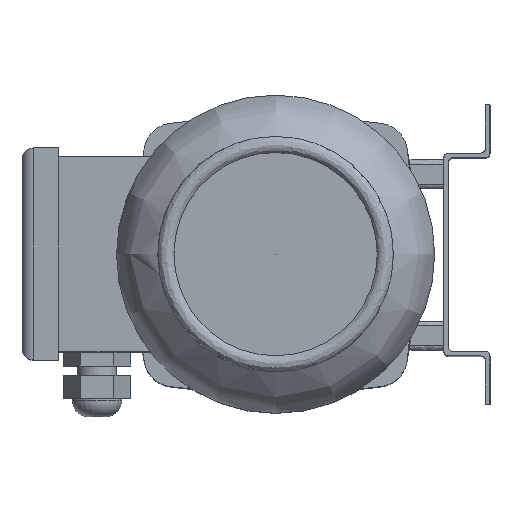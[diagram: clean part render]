
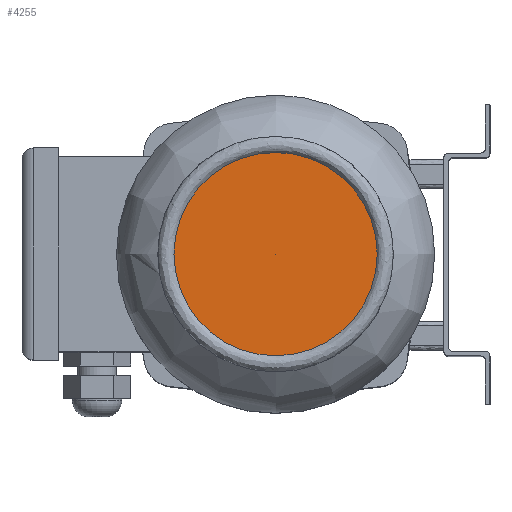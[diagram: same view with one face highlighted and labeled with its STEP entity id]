
A CAD part, top view. The second image highlights one B-rep face of the part: STEP entity #4255.
In plain terms, the highlighted conical face has half-angle 90 degrees and reference radius 0 mm.
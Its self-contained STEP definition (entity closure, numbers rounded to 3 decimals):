
#23=VERTEX_LOOP('',#3101);
#31=CONICAL_SURFACE('',#4577,0.,1.571);
#896=CIRCLE('',#4578,44.08);
#1276=ORIENTED_EDGE('',*,*,#2496,.F.);
#2496=EDGE_CURVE('',#3100,#3100,#896,.T.);
#3100=VERTEX_POINT('',#7221);
#3101=VERTEX_POINT('',#7222);
#3549=EDGE_LOOP('',(#1276));
#3880=FACE_BOUND('',#3549,.T.);
#3881=FACE_BOUND('',#23,.T.);
#4255=ADVANCED_FACE('',(#3880,#3881),#31,.F.);
#4577=AXIS2_PLACEMENT_3D('',#7219,#5093,#5094);
#4578=AXIS2_PLACEMENT_3D('',#7220,#5095,#5096);
#5093=DIRECTION('',(0.,0.,1.));
#5094=DIRECTION('',(1.,0.,0.));
#5095=DIRECTION('',(0.,0.,-1.));
#5096=DIRECTION('',(-1.,0.,0.));
#7219=CARTESIAN_POINT('',(0.,0.,350.357));
#7220=CARTESIAN_POINT('',(0.,0.,350.357));
#7221=CARTESIAN_POINT('',(-44.08,0.,350.357));
#7222=CARTESIAN_POINT('',(0.,0.,350.357));
